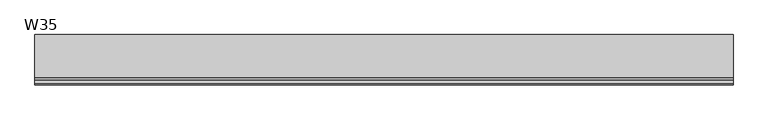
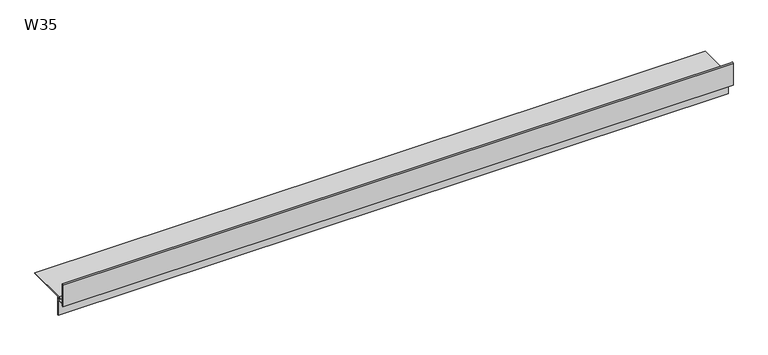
"""IFC4 building model written with IfcOpenShell, lengths in millimetres: proxy geometry, W35 Profil okapowy prosty z rynną : W35."""

import ifcopenshell
import ifcopenshell.guid

model = None  # the IFC model being written
_history = None  # IfcOwnerHistory: only IFC2X3 demands one
_inside = {}  # id of a spatial element -> (the spatial element, [elements in it])
_under = {}  # id of a project, library or spatial element -> (it, [spatial elements below it])
_declared = {}  # id of a project -> (the project, [libraries it declares])
_typed = {}  # id of a type object -> (the type object, [elements of that type])
_made_of = {}  # id of a material, layer set ... -> (it, [elements and type objects made of it])


def new_model(schema):
    """Start an empty IFC model of exactly this schema.

    Asked for "IFC4X3", IfcOpenShell would pick the latest addendum, in which some entities
    have other attributes; the version numbers below select the first issue.
    IFC2X3 requires an IfcOwnerHistory on every rooted entity: one is made here for all.
    """
    global model, _history
    if schema == "IFC4X3":
        model = ifcopenshell.file(schema_version=(4, 3, 0, 0))
    else:
        model = ifcopenshell.file(schema=schema)
    _inside.clear()
    _under.clear()
    _declared.clear()
    _typed.clear()
    _made_of.clear()
    _history = None
    if model.schema == "IFC2X3":
        org = make("IfcOrganization", Name="unknown")
        user = make(
            "IfcPersonAndOrganization",
            ThePerson=make("IfcPerson", FamilyName="unknown"),
            TheOrganization=org,
        )
        app = make(
            "IfcApplication",
            ApplicationDeveloper=org,
            Version="unknown",
            ApplicationFullName="unknown",
            ApplicationIdentifier="unknown",
        )
        _history = make(
            "IfcOwnerHistory",
            OwningUser=user,
            OwningApplication=app,
            ChangeAction="ADDED",
            CreationDate=0,
        )
    return model


def make(cls, **values):
    """One entity of the class cls with the attributes given. An attribute that is None is left unset."""
    return model.create_entity(
        cls, **{name: value for name, value in values.items() if value is not None}
    )


def rooted(cls, **values):
    """An entity with a GlobalId (a new one), such as an element, a storey or a relation."""
    return make(cls, GlobalId=ifcopenshell.guid.new(), OwnerHistory=_history, **values)


def si_unit(unit_type, name, prefix=None):
    """IfcSIUnit, for example si_unit("LENGTHUNIT", "METRE", prefix="MILLI")."""
    return make("IfcSIUnit", UnitType=unit_type, Prefix=prefix, Name=name)


def assignment(units):
    """IfcUnitAssignment: the units of a project."""
    return None if units is None else make("IfcUnitAssignment", Units=units)


def point(xyz):
    """IfcCartesianPoint."""
    return None if xyz is None else make("IfcCartesianPoint", Coordinates=xyz)


def direction(xyz):
    """IfcDirection."""
    return None if xyz is None else make("IfcDirection", DirectionRatios=xyz)


def frame(location, z_axis=None, x_axis=None):
    """IfcAxis2Placement3D, a coordinate frame: its origin and axes. An axis left out is left unset."""
    return make(
        "IfcAxis2Placement3D",
        Location=point(location),
        Axis=direction(z_axis),
        RefDirection=direction(x_axis),
    )


def frame_2d(location, x_axis=None):
    """IfcAxis2Placement2D, a coordinate frame in the plane: its origin and x axis."""
    return make(
        "IfcAxis2Placement2D", Location=point(location), RefDirection=direction(x_axis)
    )


def origin():
    """The frame at (0, 0, 0) with its axes left unset."""
    return frame((0.0, 0.0, 0.0))


def place(relative_to, where):
    """IfcLocalPlacement: puts the frame where relative to a parent placement (None: the world)."""
    return make(
        "IfcLocalPlacement", PlacementRelTo=relative_to, RelativePlacement=where
    )


def context(
    kind, dimensions, precision=None, world=None, true_north=None, identifier=None
):
    """IfcGeometricRepresentationContext, for example the 3D "Model" context."""
    return make(
        "IfcGeometricRepresentationContext",
        ContextIdentifier=identifier,
        ContextType=kind,
        CoordinateSpaceDimension=dimensions,
        Precision=precision,
        WorldCoordinateSystem=world,
        TrueNorth=true_north,
    )


def project(units=None, contexts=None):
    """IfcProject with its units and contexts."""
    return rooted(
        "IfcProject",
        Name="project",
        RepresentationContexts=contexts,
        UnitsInContext=assignment(units),
    )


def spatial(cls, under=None, at=None, **own):
    """A site, building, storey or space (cls), placed at a placement, below another one or the project."""
    s = rooted(cls, ObjectPlacement=at, **own)
    if under is not None:
        _under.setdefault(under.id(), (under, []))[1].append(s)
    return s


def polyline(points):
    """IfcPolyline through the points."""
    return make("IfcPolyline", Points=[point(p) for p in points])


def circle_curve(where, radius):
    """IfcCircle in the frame where."""
    return make("IfcCircle", Position=where, Radius=radius)


def trimmed(basis, trim1, trim2, sense, master):
    """IfcTrimmedCurve: the piece of a basis curve between two trims."""
    return make(
        "IfcTrimmedCurve",
        BasisCurve=basis,
        Trim1=trim1,
        Trim2=trim2,
        SenseAgreement=sense,
        MasterRepresentation=master,
    )


def segment(curve, same_sense, transition):
    """IfcCompositeCurveSegment."""
    return make(
        "IfcCompositeCurveSegment",
        Transition=transition,
        SameSense=same_sense,
        ParentCurve=curve,
    )


def composite_curve(segments, self_intersect=None):
    """IfcCompositeCurve: segments joined end to end."""
    return make("IfcCompositeCurve", Segments=segments, SelfIntersect=self_intersect)


def outline(outer, holes=None, kind="AREA"):
    """IfcArbitraryClosedProfileDef: a profile drawn as a closed curve; with holes, ...WithVoids."""
    if holes is None:
        return make("IfcArbitraryClosedProfileDef", ProfileType=kind, OuterCurve=outer)
    return make(
        "IfcArbitraryProfileDefWithVoids",
        ProfileType=kind,
        OuterCurve=outer,
        InnerCurves=holes,
    )


def extrude(swept, where, along, depth):
    """IfcExtrudedAreaSolid: the profile swept, set in the frame where, extruded along a direction by depth."""
    return make(
        "IfcExtrudedAreaSolid",
        SweptArea=swept,
        Position=where,
        ExtrudedDirection=direction(along),
        Depth=depth,
    )


def shape(context_of_items, identifier, shape_type, items):
    """IfcShapeRepresentation: the items that make up one representation, for example the "Body"."""
    return make(
        "IfcShapeRepresentation",
        ContextOfItems=context_of_items,
        RepresentationIdentifier=identifier,
        RepresentationType=shape_type,
        Items=items,
    )


def source(mapping_origin, context_of_items, identifier, shape_type, items):
    """IfcRepresentationMap: a shape defined once, which mapped items show again and again."""
    return make(
        "IfcRepresentationMap",
        MappingOrigin=mapping_origin,
        MappedRepresentation=shape(context_of_items, identifier, shape_type, items),
    )


def transform(
    local_origin,
    x_axis=None,
    y_axis=None,
    z_axis=None,
    scale=None,
    scale2=None,
    scale3=None,
    uniform=True,
):
    """IfcCartesianTransformationOperator3D, or its non-uniform kind. x_axis, y_axis, z_axis: its Axis1, 2, 3."""
    if uniform:
        return make(
            "IfcCartesianTransformationOperator3D",
            Axis1=direction(x_axis),
            Axis2=direction(y_axis),
            LocalOrigin=point(local_origin),
            Scale=scale,
            Axis3=direction(z_axis),
        )
    return make(
        "IfcCartesianTransformationOperator3DnonUniform",
        Axis1=direction(x_axis),
        Axis2=direction(y_axis),
        LocalOrigin=point(local_origin),
        Scale=scale,
        Axis3=direction(z_axis),
        Scale2=scale2,
        Scale3=scale3,
    )


def mapped(mapping_source, mapping_target):
    """IfcMappedItem: shows the shape of a source again, moved by a transform."""
    return make(
        "IfcMappedItem", MappingSource=mapping_source, MappingTarget=mapping_target
    )


def made_of(thing, what):
    """Note that an element or type object is made of a material, layer set ...; save() writes the relation."""
    if what is not None:
        _made_of.setdefault(what.id(), (what, []))[1].append(thing)
    return thing


def element(
    cls,
    number,
    at=None,
    inside=None,
    cuts=None,
    type_object=None,
    material=None,
    context=None,
    identifier="Body",
    shape_type=None,
    held_by="IfcProductDefinitionShape",
    body=None,
    shapes=None,
    **own,
):
    """One element of the class cls, such as IfcWall. Its Tag is "e" and its number.

    at: its placement. inside: the storey or other place that contains it. cuts: it is an
    opening in that element (IfcRelVoidsElement). A single representation is given by context,
    identifier, shape_type and body (its items); several are given by shapes. held_by: the class
    of the entity that holds the representations. save() writes the other relations.
    """
    e = rooted(cls, Tag="e%d" % number, ObjectPlacement=at, **own)
    if body is not None:
        shapes = [shape(context, identifier, shape_type, body)]
    if shapes is not None:
        e.Representation = make(held_by, Representations=shapes)
    if inside is not None:
        _inside.setdefault(inside.id(), (inside, []))[1].append(e)
    if cuts is not None:
        rooted(
            "IfcRelVoidsElement", RelatingBuildingElement=cuts, RelatedOpeningElement=e
        )
    if type_object is not None:
        _typed.setdefault(type_object.id(), (type_object, []))[1].append(e)
    return made_of(e, material)


def aggregate(whole, parts):
    """IfcRelAggregates: a whole, such as a stair, and the parts it consists of."""
    return rooted("IfcRelAggregates", RelatingObject=whole, RelatedObjects=parts)


def save(model, path):
    """Write the relations noted so far, then the file.

    IfcRelAggregates (storeys below a building ...), IfcRelContainedInSpatialStructure (elements
    in a storey), IfcRelDefinesByType, IfcRelAssociatesMaterial and IfcRelDeclares: one each for
    every whole, place, type object, material and project.
    """
    for whole, parts in _under.values():
        aggregate(whole, parts)
    for where, things in _inside.values():
        rooted(
            "IfcRelContainedInSpatialStructure",
            RelatedElements=things,
            RelatingStructure=where,
        )
    for kind, things in _typed.values():
        rooted("IfcRelDefinesByType", RelatedObjects=things, RelatingType=kind)
    for what, things in _made_of.values():
        rooted("IfcRelAssociatesMaterial", RelatedObjects=things, RelatingMaterial=what)
    for by, libraries in _declared.values():
        rooted("IfcRelDeclares", RelatingContext=by, RelatedDefinitions=libraries)
    model.write(path)


def w35_e51c26d3(model_context):
    return source(origin(), model_context, "Body", "SweptSolid", [
        extrude(outline(composite_curve([segment(polyline([(-6.45625, -36.4912009), (-6.4562498, -76.1912009), (-7.9562498, -76.1912009), (-7.9562498, -43.2912011), (-22.5562498, -43.2912011), (-22.5562498, -47.1447542), (-24.0562499, -48.6447543), (-24.0562499, -2.248618)]), True, "CONTINUOUS"), segment(trimmed(circle_curve(frame_2d((-21.7562505, -2.248618)), 2.2999994), [point((-24.0562499, -2.248618))], [point((-22.2404603, -0.0001657))], False, "CARTESIAN"), True, "CONTINUOUS"), segment(polyline([(-22.2404603, -0.0001657), (-21.9232762, -1.4858246)]), True, "CONTINUOUS"), segment(trimmed(circle_curve(frame_2d((-21.756241, -2.2682013)), 0.8000089), [point((-21.9232762, -1.4858246))], [point((-22.5562498, -2.2682013))], True, "CARTESIAN"), True, "CONTINUOUS"), segment(polyline([(-22.5562498, -2.2682013), (-22.5562497, -41.7912008), (-7.9562498, -41.7912008), (-7.9562498, -36.4912009), (-10.9562498, -36.4912009)]), True, "CONTINUOUS"), segment(trimmed(circle_curve(frame_2d((-10.9562498, -38.9912009)), 2.5), [point((-10.9562498, -36.4912009))], [point((-13.3562498, -38.291201))], True, "CARTESIAN"), True, "CONTINUOUS"), segment(polyline([(-13.3562498, -38.291201), (-14.8884421, -38.291201)]), True, "CONTINUOUS"), segment(trimmed(circle_curve(frame_2d((-10.9605833, -38.9787852)), 3.9875866), [point((-14.8884421, -38.291201))], [point((-10.9562499, -34.9912009))], False, "CARTESIAN"), True, "CONTINUOUS"), segment(polyline([(-10.9562499, -34.9912009), (73.5437501, -34.9912009), (73.5437501, -36.4912009), (-6.45625, -36.4912009)]), True, "CONTINUOUS")], self_intersect=False)), frame((0.0, 0.0, 0.0), z_axis=(1.0, 0.0, 0.0), x_axis=(0.0, 1.0, 0.0)), (0.0, 0.0, 1.0), 1356.0725865),
    ])


if __name__ == "__main__":
    model = new_model("IFC4")
    model_context = context("Model", 3, world=origin())
    ifc_project = project(units=[si_unit("LENGTHUNIT", "METRE", prefix="MILLI")], contexts=[model_context])
    site = spatial("IfcSite", under=ifc_project)
    building = spatial("IfcBuilding", under=site)
    placement = place(None, origin())
    w35_shape = w35_e51c26d3(model_context)
    element("IfcBuildingElementProxy", 1, Name="W35 Profil okapowy prosty z rynną : W35", ObjectType="W35 Profil okapowy prosty z rynną : W35", at=placement, inside=building, context=model_context, shape_type="MappedRepresentation", body=[
        mapped(w35_shape, transform((0.0, 0.0, 0.0), x_axis=(1.0, 0.0, 0.0), y_axis=(0.0, 1.0, 0.0), z_axis=(0.0, 0.0, 1.0))),
    ])
    save(model, "model.ifc")
